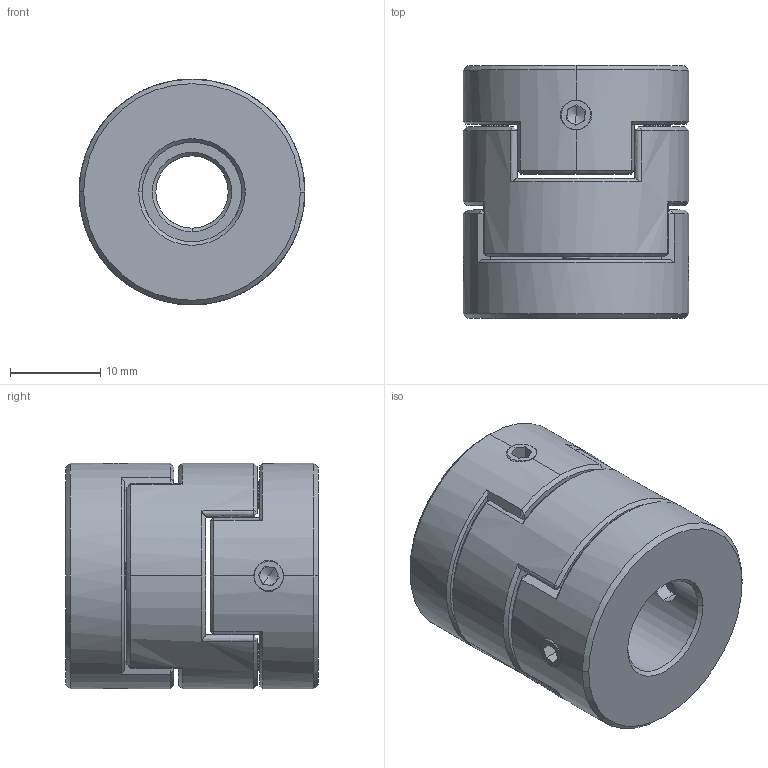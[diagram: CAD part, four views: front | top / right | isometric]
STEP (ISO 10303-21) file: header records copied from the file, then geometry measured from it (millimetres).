
FILE_DESCRIPTION (( 'STEP AP203' ), '1' );
FILE_NAME ('LZ-D-D25L28-8-11.STEP', '2021-10-30T02:20:15', ( '' ), ( '' ), 'SwSTEP 2.0', 'SolidWorks 2018', '' );
FILE_SCHEMA (( 'CONFIG_CONTROL_DESIGN' ));
Length unit declared in the file: millimetre
Products named in the file (1): LZ-D-D25L28-8-11
Bounding box: 25 x 28 x 25 mm (x, y, z)
Volume: 11023 mm3; surface area: 5542 mm2
Topology: 1 solids, 1 shells, 218 faces, 574 edges, 348 vertices
Faces by surface type: plane 88, cone 54, bspline 50, cylinder 26
Entity records: 9886 total; most frequent: CARTESIAN_POINT 4962, ORIENTED_EDGE 1132, DIRECTION 834, EDGE_CURVE 566, VERTEX_POINT 348, AXIS2_PLACEMENT_3D 303, EDGE_LOOP 234, VECTOR 228
